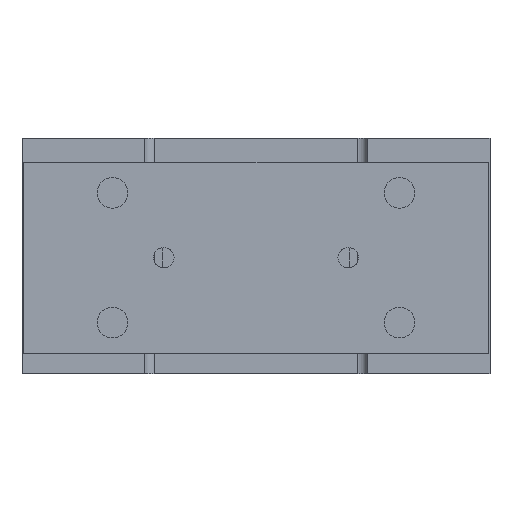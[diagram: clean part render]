
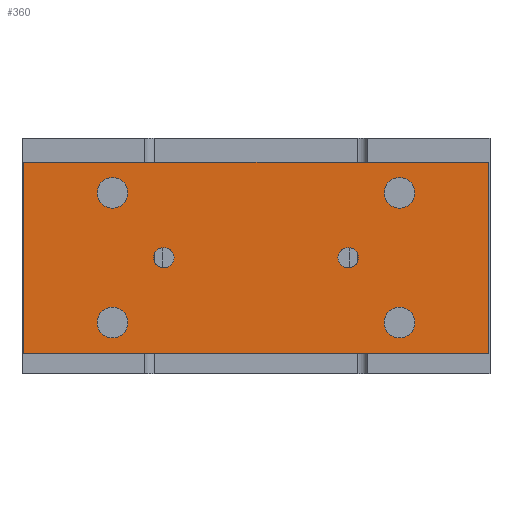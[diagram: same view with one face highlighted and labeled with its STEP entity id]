
A CAD part, left-side view. The second image highlights one B-rep face of the part: STEP entity #360.
In plain terms, the highlighted planar face has unit normal (-1, 0, 0).
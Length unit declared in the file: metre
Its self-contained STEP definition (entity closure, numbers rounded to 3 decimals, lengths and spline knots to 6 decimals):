
#360 = ADVANCED_FACE( '', ( #929, #930, #931, #932, #933, #934, #935 ), #936, .T. );
#929 = FACE_BOUND( '', #1785, .T. );
#930 = FACE_BOUND( '', #1786, .T. );
#931 = FACE_BOUND( '', #1787, .T. );
#932 = FACE_BOUND( '', #1788, .T. );
#933 = FACE_BOUND( '', #1789, .T. );
#934 = FACE_BOUND( '', #1790, .T. );
#935 = FACE_OUTER_BOUND( '', #1791, .T. );
#936 = PLANE( '', #1792 );
#1785 = EDGE_LOOP( '', ( #2819 ) );
#1786 = EDGE_LOOP( '', ( #2820 ) );
#1787 = EDGE_LOOP( '', ( #2821 ) );
#1788 = EDGE_LOOP( '', ( #2822 ) );
#1789 = EDGE_LOOP( '', ( #2823 ) );
#1790 = EDGE_LOOP( '', ( #2824 ) );
#1791 = EDGE_LOOP( '', ( #2825, #2826, #2827, #2828 ) );
#1792 = AXIS2_PLACEMENT_3D( '', #2829, #2830, #2831 );
#2819 = ORIENTED_EDGE( '', *, *, #4262, .F. );
#2820 = ORIENTED_EDGE( '', *, *, #4263, .F. );
#2821 = ORIENTED_EDGE( '', *, *, #4264, .F. );
#2822 = ORIENTED_EDGE( '', *, *, #4265, .F. );
#2823 = ORIENTED_EDGE( '', *, *, #4266, .F. );
#2824 = ORIENTED_EDGE( '', *, *, #4267, .T. );
#2825 = ORIENTED_EDGE( '', *, *, #4268, .T. );
#2826 = ORIENTED_EDGE( '', *, *, #4269, .T. );
#2827 = ORIENTED_EDGE( '', *, *, #4270, .T. );
#2828 = ORIENTED_EDGE( '', *, *, #4100, .T. );
#2829 = CARTESIAN_POINT( '', ( -0.1025, -0.068, -0.007 ) );
#2830 = DIRECTION( '', ( -1., 0., 0. ) );
#2831 = DIRECTION( '', ( 0., 0., 1. ) );
#4100 = EDGE_CURVE( '', #4733, #4731, #4734, .T. );
#4262 = EDGE_CURVE( '', #4997, #4997, #4998, .T. );
#4263 = EDGE_CURVE( '', #4999, #4999, #5000, .T. );
#4264 = EDGE_CURVE( '', #5001, #5001, #5002, .T. );
#4265 = EDGE_CURVE( '', #5003, #5003, #5004, .T. );
#4266 = EDGE_CURVE( '', #5005, #5005, #5006, .T. );
#4267 = EDGE_CURVE( '', #5007, #5007, #5008, .T. );
#4268 = EDGE_CURVE( '', #4731, #5009, #5010, .T. );
#4269 = EDGE_CURVE( '', #5009, #5011, #5012, .T. );
#4270 = EDGE_CURVE( '', #5011, #4733, #5013, .T. );
#4731 = VERTEX_POINT( '', #5694 );
#4733 = VERTEX_POINT( '', #5697 );
#4734 = LINE( '', #5698, #5699 );
#4997 = VERTEX_POINT( '', #6120 );
#4998 = CIRCLE( '', #6121, 0.0045 );
#4999 = VERTEX_POINT( '', #6122 );
#5000 = CIRCLE( '', #6123, 0.0045 );
#5001 = VERTEX_POINT( '', #6124 );
#5002 = CIRCLE( '', #6125, 0.0045 );
#5003 = VERTEX_POINT( '', #6126 );
#5004 = CIRCLE( '', #6127, 0.0045 );
#5005 = VERTEX_POINT( '', #6128 );
#5006 = CIRCLE( '', #6129, 0.003 );
#5007 = VERTEX_POINT( '', #6130 );
#5008 = CIRCLE( '', #6131, 0.003 );
#5009 = VERTEX_POINT( '', #6132 );
#5010 = LINE( '', #6133, #6134 );
#5011 = VERTEX_POINT( '', #6135 );
#5012 = LINE( '', #6136, #6137 );
#5013 = LINE( '', #6138, #6139 );
#5694 = CARTESIAN_POINT( '', ( -0.1025, -0.068, -0.063 ) );
#5697 = CARTESIAN_POINT( '', ( -0.1025, 0.068, -0.063 ) );
#5698 = CARTESIAN_POINT( '', ( -0.1025, 0.068, -0.063 ) );
#5699 = VECTOR( '', #6917, 1. );
#6120 = CARTESIAN_POINT( '', ( -0.1025, -0.0465, -0.054 ) );
#6121 = AXIS2_PLACEMENT_3D( '', #7148, #7149, #7150 );
#6122 = CARTESIAN_POINT( '', ( -0.1025, 0.0375, -0.054 ) );
#6123 = AXIS2_PLACEMENT_3D( '', #7151, #7152, #7153 );
#6124 = CARTESIAN_POINT( '', ( -0.1025, -0.0465, -0.016 ) );
#6125 = AXIS2_PLACEMENT_3D( '', #7154, #7155, #7156 );
#6126 = CARTESIAN_POINT( '', ( -0.1025, 0.0375, -0.016 ) );
#6127 = AXIS2_PLACEMENT_3D( '', #7157, #7158, #7159 );
#6128 = CARTESIAN_POINT( '', ( -0.1025, -0.024, -0.035 ) );
#6129 = AXIS2_PLACEMENT_3D( '', #7160, #7161, #7162 );
#6130 = CARTESIAN_POINT( '', ( -0.1025, 0.024, -0.035 ) );
#6131 = AXIS2_PLACEMENT_3D( '', #7163, #7164, #7165 );
#6132 = CARTESIAN_POINT( '', ( -0.1025, -0.068, -0.007 ) );
#6133 = CARTESIAN_POINT( '', ( -0.1025, -0.068, -0.063 ) );
#6134 = VECTOR( '', #7166, 1. );
#6135 = CARTESIAN_POINT( '', ( -0.1025, 0.068, -0.007 ) );
#6136 = CARTESIAN_POINT( '', ( -0.1025, -0.068, -0.007 ) );
#6137 = VECTOR( '', #7167, 1. );
#6138 = CARTESIAN_POINT( '', ( -0.1025, 0.068, -0.007 ) );
#6139 = VECTOR( '', #7168, 1. );
#6917 = DIRECTION( '', ( 0., -1., 0. ) );
#7148 = CARTESIAN_POINT( '', ( -0.1025, -0.042, -0.054 ) );
#7149 = DIRECTION( '', ( -1., 0., 0. ) );
#7150 = DIRECTION( '', ( 0., -1., 0. ) );
#7151 = CARTESIAN_POINT( '', ( -0.1025, 0.042, -0.054 ) );
#7152 = DIRECTION( '', ( -1., 0., 0. ) );
#7153 = DIRECTION( '', ( 0., -1., 0. ) );
#7154 = CARTESIAN_POINT( '', ( -0.1025, -0.042, -0.016 ) );
#7155 = DIRECTION( '', ( -1., 0., 0. ) );
#7156 = DIRECTION( '', ( 0., -1., 0. ) );
#7157 = CARTESIAN_POINT( '', ( -0.1025, 0.042, -0.016 ) );
#7158 = DIRECTION( '', ( -1., 0., 0. ) );
#7159 = DIRECTION( '', ( 0., -1., 0. ) );
#7160 = CARTESIAN_POINT( '', ( -0.1025, -0.027, -0.035 ) );
#7161 = DIRECTION( '', ( -1., 0., 0. ) );
#7162 = DIRECTION( '', ( 0., 1., 0. ) );
#7163 = CARTESIAN_POINT( '', ( -0.1025, 0.027, -0.035 ) );
#7164 = DIRECTION( '', ( 1., 0., 0. ) );
#7165 = DIRECTION( '', ( 0., -1., 0. ) );
#7166 = DIRECTION( '', ( 0., 0., 1. ) );
#7167 = DIRECTION( '', ( 0., 1., 0. ) );
#7168 = DIRECTION( '', ( 0., 0., -1. ) );
